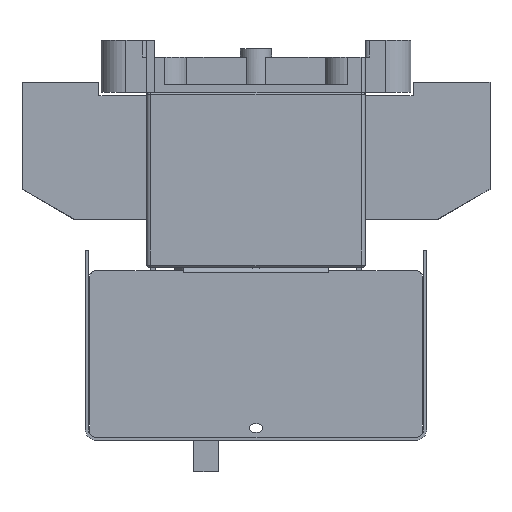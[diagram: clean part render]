
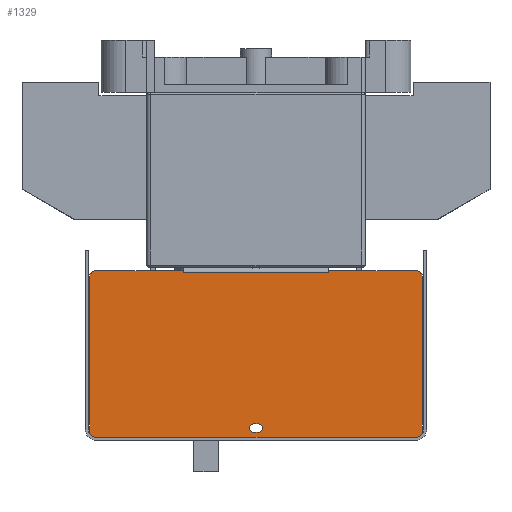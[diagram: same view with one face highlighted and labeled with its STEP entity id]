
A CAD part, left-side view. The second image highlights one B-rep face of the part: STEP entity #1329.
In plain terms, the highlighted planar face has unit normal (-1, 0, 0).
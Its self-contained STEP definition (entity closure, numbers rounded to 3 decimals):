
#170=FACE_BOUND('',#4641,.T.);
#171=FACE_BOUND('',#4642,.T.);
#1329=ADVANCED_FACE('',(#170,#171),#2339,.T.);
#2339=PLANE('',#24716);
#4641=EDGE_LOOP('',(#9539,#9540,#9541,#9542,#9543,#9544,#9545,#9546,#9547,
#9548,#9549,#9550,#9551,#9552));
#4642=EDGE_LOOP('',(#9553,#9554,#9555,#9556));
#5763=CIRCLE('',#24694,2.1);
#5765=CIRCLE('',#24698,2.1);
#5767=CIRCLE('',#24702,3.);
#5769=CIRCLE('',#24705,3.);
#5771=CIRCLE('',#24709,3.);
#5773=CIRCLE('',#24713,3.);
#9539=ORIENTED_EDGE('',*,*,#16827,.F.);
#9540=ORIENTED_EDGE('',*,*,#16828,.T.);
#9541=ORIENTED_EDGE('',*,*,#16829,.T.);
#9542=ORIENTED_EDGE('',*,*,#16830,.T.);
#9543=ORIENTED_EDGE('',*,*,#16831,.F.);
#9544=ORIENTED_EDGE('',*,*,#16819,.T.);
#9545=ORIENTED_EDGE('',*,*,#16824,.T.);
#9546=ORIENTED_EDGE('',*,*,#16807,.T.);
#9547=ORIENTED_EDGE('',*,*,#16810,.T.);
#9548=ORIENTED_EDGE('',*,*,#16785,.T.);
#9549=ORIENTED_EDGE('',*,*,#16813,.T.);
#9550=ORIENTED_EDGE('',*,*,#16816,.T.);
#9551=ORIENTED_EDGE('',*,*,#16818,.T.);
#9552=ORIENTED_EDGE('',*,*,#16793,.T.);
#9553=ORIENTED_EDGE('',*,*,#16797,.T.);
#9554=ORIENTED_EDGE('',*,*,#16801,.T.);
#9555=ORIENTED_EDGE('',*,*,#16804,.T.);
#9556=ORIENTED_EDGE('',*,*,#16826,.T.);
#13646=VERTEX_POINT('',#34485);
#13691=VERTEX_POINT('',#34582);
#13975=VERTEX_POINT('',#35673);
#13976=VERTEX_POINT('',#35675);
#13979=VERTEX_POINT('',#35682);
#13980=VERTEX_POINT('',#35684);
#13982=VERTEX_POINT('',#35690);
#13984=VERTEX_POINT('',#35696);
#13987=VERTEX_POINT('',#35703);
#13988=VERTEX_POINT('',#35705);
#13990=VERTEX_POINT('',#35714);
#13992=VERTEX_POINT('',#35720);
#13993=VERTEX_POINT('',#35727);
#13994=VERTEX_POINT('',#35728);
#13997=VERTEX_POINT('',#35742);
#13998=VERTEX_POINT('',#35744);
#13999=VERTEX_POINT('',#35746);
#14000=VERTEX_POINT('',#35748);
#16785=EDGE_CURVE('',#13646,#13691,#19737,.T.);
#16793=EDGE_CURVE('',#13976,#13975,#19744,.T.);
#16797=EDGE_CURVE('',#13980,#13979,#5763,.T.);
#16801=EDGE_CURVE('',#13979,#13982,#19750,.T.);
#16804=EDGE_CURVE('',#13982,#13984,#5765,.T.);
#16807=EDGE_CURVE('',#13988,#13987,#19754,.T.);
#16810=EDGE_CURVE('',#13987,#13646,#5767,.T.);
#16813=EDGE_CURVE('',#13691,#13990,#5769,.T.);
#16816=EDGE_CURVE('',#13990,#13992,#19759,.T.);
#16818=EDGE_CURVE('',#13992,#13976,#5771,.T.);
#16819=EDGE_CURVE('',#13993,#13994,#19760,.T.);
#16824=EDGE_CURVE('',#13994,#13988,#5773,.T.);
#16826=EDGE_CURVE('',#13984,#13980,#19765,.T.);
#16827=EDGE_CURVE('',#13997,#13975,#19766,.T.);
#16828=EDGE_CURVE('',#13997,#13998,#19767,.T.);
#16829=EDGE_CURVE('',#13998,#13999,#19768,.T.);
#16830=EDGE_CURVE('',#13999,#14000,#19769,.T.);
#16831=EDGE_CURVE('',#13993,#14000,#19770,.T.);
#19737=LINE('',#35656,#22353);
#19744=LINE('',#35674,#22360);
#19750=LINE('',#35691,#22366);
#19754=LINE('',#35704,#22370);
#19759=LINE('',#35721,#22375);
#19760=LINE('',#35726,#22376);
#19765=LINE('',#35739,#22381);
#19766=LINE('',#35741,#22382);
#19767=LINE('',#35743,#22383);
#19768=LINE('',#35745,#22384);
#19769=LINE('',#35747,#22385);
#19770=LINE('',#35749,#22386);
#22353=VECTOR('',#28985,1.);
#22360=VECTOR('',#28998,1.);
#22366=VECTOR('',#29012,1.);
#22370=VECTOR('',#29024,1.);
#22375=VECTOR('',#29043,1.);
#22376=VECTOR('',#29052,1.);
#22381=VECTOR('',#29065,1.);
#22382=VECTOR('',#29068,1.);
#22383=VECTOR('',#29069,1.);
#22384=VECTOR('',#29070,1.);
#22385=VECTOR('',#29071,1.);
#22386=VECTOR('',#29072,1.);
#24694=AXIS2_PLACEMENT_3D('',#35683,#29005,#29006);
#24698=AXIS2_PLACEMENT_3D('',#35697,#29018,#29019);
#24702=AXIS2_PLACEMENT_3D('',#35709,#29030,#29031);
#24705=AXIS2_PLACEMENT_3D('',#35715,#29037,#29038);
#24709=AXIS2_PLACEMENT_3D('',#35724,#29048,#29049);
#24713=AXIS2_PLACEMENT_3D('',#35736,#29060,#29061);
#24716=AXIS2_PLACEMENT_3D('',#35750,#29073,#29074);
#28985=DIRECTION('',(0.,-1.,0.));
#28998=DIRECTION('',(0.,1.,0.));
#29005=DIRECTION('',(1.,0.,0.));
#29006=DIRECTION('',(0.,1.,0.));
#29012=DIRECTION('',(0.,-1.,0.));
#29018=DIRECTION('',(1.,0.,0.));
#29019=DIRECTION('',(0.,1.,0.));
#29024=DIRECTION('',(0.,0.,-1.));
#29030=DIRECTION('',(-1.,0.,0.));
#29031=DIRECTION('',(0.,1.,0.));
#29037=DIRECTION('',(-1.,0.,0.));
#29038=DIRECTION('',(0.,1.,0.));
#29043=DIRECTION('',(0.,0.,1.));
#29048=DIRECTION('',(-1.,0.,0.));
#29049=DIRECTION('',(0.,1.,0.));
#29052=DIRECTION('',(0.,1.,0.));
#29060=DIRECTION('',(-1.,0.,0.));
#29061=DIRECTION('',(0.,1.,0.));
#29065=DIRECTION('',(0.,1.,0.));
#29068=DIRECTION('',(0.,0.,1.));
#29069=DIRECTION('',(0.,1.,0.));
#29070=DIRECTION('',(0.,1.,0.));
#29071=DIRECTION('',(0.,1.,0.));
#29072=DIRECTION('',(0.,0.,-1.));
#29073=DIRECTION('',(-1.,0.,0.));
#29074=DIRECTION('',(0.,-1.,0.));
#34485=CARTESIAN_POINT('',(-189.3,77.,-165.8));
#34582=CARTESIAN_POINT('',(-189.3,-77.,-165.8));
#35656=CARTESIAN_POINT('',(-189.3,77.,-165.8));
#35673=CARTESIAN_POINT('',(-189.3,-35.002,-85.8));
#35674=CARTESIAN_POINT('',(-189.3,-77.,-85.8));
#35675=CARTESIAN_POINT('',(-189.3,-77.,-85.8));
#35682=CARTESIAN_POINT('',(-189.3,1.,-159.3));
#35683=CARTESIAN_POINT('',(-189.3,1.,-161.4));
#35684=CARTESIAN_POINT('',(-189.3,1.,-163.5));
#35690=CARTESIAN_POINT('',(-189.3,-1.,-159.3));
#35691=CARTESIAN_POINT('',(-189.3,1.,-159.3));
#35696=CARTESIAN_POINT('',(-189.3,-1.,-163.5));
#35697=CARTESIAN_POINT('',(-189.3,-1.,-161.4));
#35703=CARTESIAN_POINT('',(-189.3,80.,-162.8));
#35704=CARTESIAN_POINT('',(-189.3,80.,-88.8));
#35705=CARTESIAN_POINT('',(-189.3,80.,-88.8));
#35709=CARTESIAN_POINT('',(-189.3,77.,-162.8));
#35714=CARTESIAN_POINT('',(-189.3,-80.,-162.8));
#35715=CARTESIAN_POINT('',(-189.3,-77.,-162.8));
#35720=CARTESIAN_POINT('',(-189.3,-80.,-88.8));
#35721=CARTESIAN_POINT('',(-189.3,-80.,-162.8));
#35724=CARTESIAN_POINT('',(-189.3,-77.,-88.8));
#35726=CARTESIAN_POINT('',(-189.3,-77.,-85.8));
#35727=CARTESIAN_POINT('',(-189.3,35.002,-85.8));
#35728=CARTESIAN_POINT('',(-189.3,77.,-85.8));
#35736=CARTESIAN_POINT('',(-189.3,77.,-88.8));
#35739=CARTESIAN_POINT('',(-189.3,-1.,-163.5));
#35741=CARTESIAN_POINT('',(-189.3,-35.002,-162.8));
#35742=CARTESIAN_POINT('',(-189.3,-35.002,-86.8));
#35743=CARTESIAN_POINT('',(-189.3,77.,-86.8));
#35744=CARTESIAN_POINT('',(-189.3,-35.,-86.8));
#35745=CARTESIAN_POINT('',(-189.3,50.5,-86.8));
#35746=CARTESIAN_POINT('',(-189.3,35.,-86.8));
#35747=CARTESIAN_POINT('',(-189.3,77.,-86.8));
#35748=CARTESIAN_POINT('',(-189.3,35.002,-86.8));
#35749=CARTESIAN_POINT('',(-189.3,35.002,-162.8));
#35750=CARTESIAN_POINT('',(-189.3,77.,-162.8));
